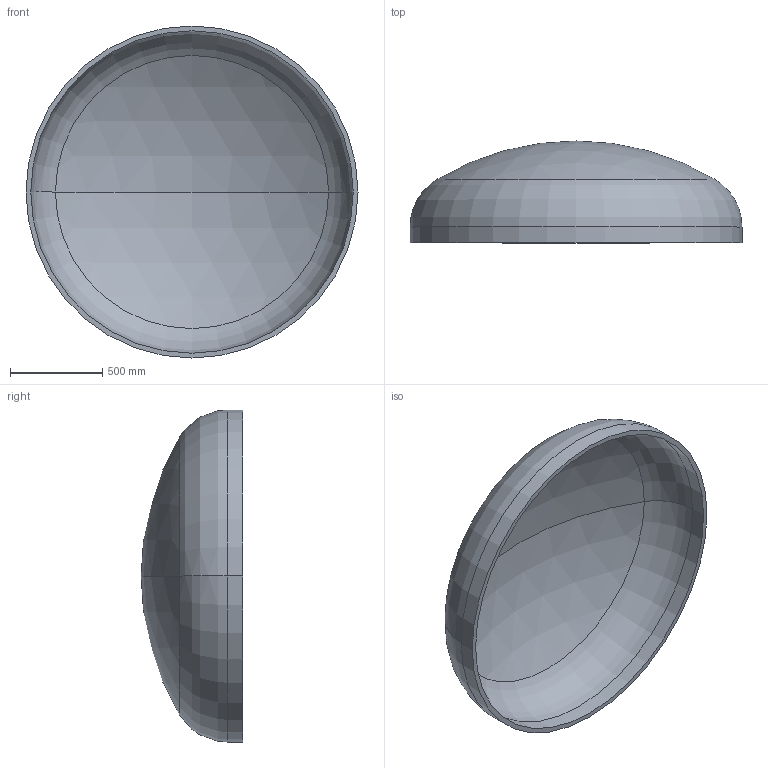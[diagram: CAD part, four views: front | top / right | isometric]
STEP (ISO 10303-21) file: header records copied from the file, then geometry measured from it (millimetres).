
FILE_DESCRIPTION (( 'STEP AP203' ), '1' );
FILE_NAME ('DIN 28013 Korbbogenform_-_Boden DIN 28013 - 1800 x 85 - I - s=26.step', '2016-07-01T12:23:39', ( '' ), ( '' ), 'SwSTEP 2.0', 'SolidWorks 2013', '' );
FILE_SCHEMA (( 'CONFIG_CONTROL_DESIGN' ));
Length unit declared in the file: millimetre
Products named in the file (1): DIN 28013 Korbbogenform_-_Boden DIN 28013 - 1800 x 85 - I - s=26
Bounding box: 1800 x 551.79 x 1800 mm (x, y, z)
Volume: 102077548.6 mm3; surface area: 7998435 mm2
Topology: 1 solids, 1 shells, 13 faces, 24 edges, 14 vertices
Faces by surface type: torus 4, cylinder 4, sphere 4, plane 1
Entity records: 407 total; most frequent: DIRECTION 72, CARTESIAN_POINT 52, ORIENTED_EDGE 48, AXIS2_PLACEMENT_3D 34, EDGE_CURVE 24, CIRCLE 20, VERTEX_POINT 14, EDGE_LOOP 14
